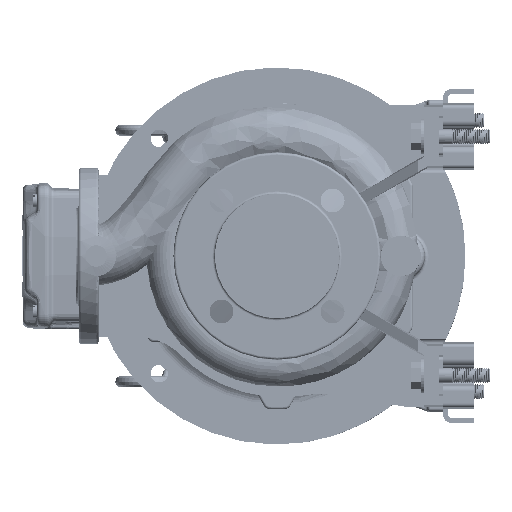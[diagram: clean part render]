
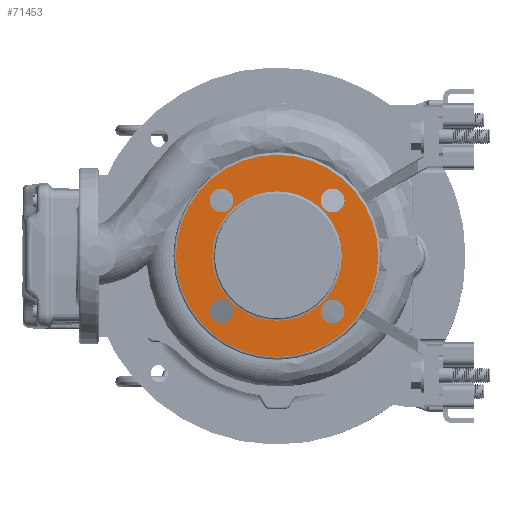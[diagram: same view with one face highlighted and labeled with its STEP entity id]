
A CAD part, left-side view. The second image highlights one B-rep face of the part: STEP entity #71453.
In plain terms, the highlighted planar face has unit normal (-1, 0, 0).
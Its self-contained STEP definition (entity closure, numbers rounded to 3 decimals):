
#610 = DIRECTION ( 'NONE',  ( 0., 1., 0. ) ) ;
#2597 = CIRCLE ( 'NONE', #121184, 9.5 ) ;
#4709 = EDGE_LOOP ( 'NONE', ( #108628, #142836 ) ) ;
#6112 = CARTESIAN_POINT ( 'NONE',  ( -120.82, 91.159, 279.741 ) ) ;
#6345 = CARTESIAN_POINT ( 'NONE',  ( -120.82, 215.853, 235.546 ) ) ;
#7012 = ORIENTED_EDGE ( 'NONE', *, *, #24531, .F. ) ;
#7055 = DIRECTION ( 'NONE',  ( 0., -1., 0. ) ) ;
#10644 = CIRCLE ( 'NONE', #50999, 80.5 ) ;
#12443 = CIRCLE ( 'NONE', #165900, 9.5 ) ;
#12682 = DIRECTION ( 'NONE',  ( 0., 1., 0. ) ) ;
#13938 = DIRECTION ( 'NONE',  ( 0., 0., 1. ) ) ;
#14482 = DIRECTION ( 'NONE',  ( -1., 0., 0. ) ) ;
#15653 = EDGE_LOOP ( 'NONE', ( #146775, #64648 ) ) ;
#15783 = CIRCLE ( 'NONE', #18428, 80.5 ) ;
#16648 = VERTEX_POINT ( 'NONE', #131431 ) ;
#17699 = ORIENTED_EDGE ( 'NONE', *, *, #138124, .F. ) ;
#18428 = AXIS2_PLACEMENT_3D ( 'NONE', #157120, #120843, #107389 ) ;
#20171 = ORIENTED_EDGE ( 'NONE', *, *, #32371, .F. ) ;
#20333 = DIRECTION ( 'NONE',  ( -1., 0., 0. ) ) ;
#23527 = CIRCLE ( 'NONE', #50499, 9.5 ) ;
#24531 = EDGE_CURVE ( 'NONE', #159155, #96260, #118765, .T. ) ;
#24787 = EDGE_LOOP ( 'NONE', ( #106997, #20171 ) ) ;
#25406 = ORIENTED_EDGE ( 'NONE', *, *, #28792, .F. ) ;
#28792 = EDGE_CURVE ( 'NONE', #124839, #139012, #135855, .T. ) ;
#30000 = CARTESIAN_POINT ( 'NONE',  ( -120.82, 127.465, 235.546 ) ) ;
#30921 = CIRCLE ( 'NONE', #117101, 9.5 ) ;
#32371 = EDGE_CURVE ( 'NONE', #157314, #16648, #23527, .T. ) ;
#38835 = CARTESIAN_POINT ( 'NONE',  ( -120.82, 215.853, 323.935 ) ) ;
#40479 = VERTEX_POINT ( 'NONE', #6112 ) ;
#48130 = CARTESIAN_POINT ( 'NONE',  ( -120.82, 223.159, 279.741 ) ) ;
#49294 = CARTESIAN_POINT ( 'NONE',  ( -120.82, 225.353, 323.935 ) ) ;
#50499 = AXIS2_PLACEMENT_3D ( 'NONE', #88370, #130465, #610 ) ;
#50999 = AXIS2_PLACEMENT_3D ( 'NONE', #165051, #128784, #141416 ) ;
#51461 = FACE_BOUND ( 'NONE', #99725, .T. ) ;
#52324 = DIRECTION ( 'NONE',  ( -1., 0., 0. ) ) ;
#52541 = EDGE_LOOP ( 'NONE', ( #74831, #25406 ) ) ;
#53853 = ORIENTED_EDGE ( 'NONE', *, *, #132936, .F. ) ;
#55297 = DIRECTION ( 'NONE',  ( 0., 1., 0. ) ) ;
#55962 = CARTESIAN_POINT ( 'NONE',  ( -120.82, 117.965, 323.935 ) ) ;
#56860 = CARTESIAN_POINT ( 'NONE',  ( -120.82, 225.353, 235.546 ) ) ;
#57433 = EDGE_CURVE ( 'NONE', #40479, #107458, #10644, .T. ) ;
#57810 = DIRECTION ( 'NONE',  ( -1., 0., 0. ) ) ;
#58520 = CARTESIAN_POINT ( 'NONE',  ( -120.82, 171.659, 279.741 ) ) ;
#59065 = VERTEX_POINT ( 'NONE', #139860 ) ;
#60722 = VERTEX_POINT ( 'NONE', #49294 ) ;
#60795 = FACE_BOUND ( 'NONE', #52541, .T. ) ;
#61036 = CARTESIAN_POINT ( 'NONE',  ( -120.82, 136.965, 235.546 ) ) ;
#64648 = ORIENTED_EDGE ( 'NONE', *, *, #162212, .T. ) ;
#65106 = DIRECTION ( 'NONE',  ( 0., -1., 0. ) ) ;
#67466 = CARTESIAN_POINT ( 'NONE',  ( -120.82, 120.159, 279.741 ) ) ;
#71453 = ADVANCED_FACE ( 'NONE', ( #88590, #153498, #51461, #115540, #60795, #165306 ), #140817, .F. ) ;
#74831 = ORIENTED_EDGE ( 'NONE', *, *, #104615, .F. ) ;
#75254 = AXIS2_PLACEMENT_3D ( 'NONE', #146846, #20333, #123206 ) ;
#75456 = AXIS2_PLACEMENT_3D ( 'NONE', #38835, #52324, #132395 ) ;
#77419 = CARTESIAN_POINT ( 'NONE',  ( -120.82, 252.159, 279.741 ) ) ;
#78093 = AXIS2_PLACEMENT_3D ( 'NONE', #48130, #166144, #12682 ) ;
#80526 = CARTESIAN_POINT ( 'NONE',  ( -120.82, 215.853, 235.546 ) ) ;
#83944 = DIRECTION ( 'NONE',  ( 0., 0., 1. ) ) ;
#84678 = EDGE_LOOP ( 'NONE', ( #151621, #7012 ) ) ;
#88370 = CARTESIAN_POINT ( 'NONE',  ( -120.82, 127.465, 235.546 ) ) ;
#88590 = FACE_BOUND ( 'NONE', #84678, .T. ) ;
#90193 = DIRECTION ( 'NONE',  ( 0., 0., -1. ) ) ;
#93245 = EDGE_CURVE ( 'NONE', #96260, #159155, #12443, .T. ) ;
#94246 = CIRCLE ( 'NONE', #75456, 9.5 ) ;
#96260 = VERTEX_POINT ( 'NONE', #55962 ) ;
#96965 = EDGE_CURVE ( 'NONE', #60722, #100098, #147965, .T. ) ;
#99725 = EDGE_LOOP ( 'NONE', ( #53853, #17699 ) ) ;
#100098 = VERTEX_POINT ( 'NONE', #142885 ) ;
#104615 = EDGE_CURVE ( 'NONE', #139012, #124839, #152518, .T. ) ;
#104721 = CARTESIAN_POINT ( 'NONE',  ( -120.82, 171.659, 279.741 ) ) ;
#105687 = CARTESIAN_POINT ( 'NONE',  ( -120.82, 223.159, 279.741 ) ) ;
#105724 = CIRCLE ( 'NONE', #111096, 9.5 ) ;
#106997 = ORIENTED_EDGE ( 'NONE', *, *, #129070, .F. ) ;
#107389 = DIRECTION ( 'NONE',  ( 0., -1., 0. ) ) ;
#107458 = VERTEX_POINT ( 'NONE', #77419 ) ;
#108628 = ORIENTED_EDGE ( 'NONE', *, *, #127296, .F. ) ;
#109117 = DIRECTION ( 'NONE',  ( -1., 0., 0. ) ) ;
#109439 = AXIS2_PLACEMENT_3D ( 'NONE', #104721, #14482, #65106 ) ;
#111096 = AXIS2_PLACEMENT_3D ( 'NONE', #6345, #57810, #83944 ) ;
#115486 = DIRECTION ( 'NONE',  ( -1., 0., 0. ) ) ;
#115540 = FACE_BOUND ( 'NONE', #4709, .T. ) ;
#117101 = AXIS2_PLACEMENT_3D ( 'NONE', #80526, #157244, #13938 ) ;
#118765 = CIRCLE ( 'NONE', #140291, 9.5 ) ;
#120843 = DIRECTION ( 'NONE',  ( -1., 0., 0. ) ) ;
#121184 = AXIS2_PLACEMENT_3D ( 'NONE', #30000, #159815, #55297 ) ;
#123206 = DIRECTION ( 'NONE',  ( 0., -1., 0. ) ) ;
#124839 = VERTEX_POINT ( 'NONE', #105687 ) ;
#127296 = EDGE_CURVE ( 'NONE', #100098, #60722, #94246, .T. ) ;
#128784 = DIRECTION ( 'NONE',  ( -1., 0., 0. ) ) ;
#129070 = EDGE_CURVE ( 'NONE', #16648, #157314, #2597, .T. ) ;
#130465 = DIRECTION ( 'NONE',  ( -1., 0., 0. ) ) ;
#131431 = CARTESIAN_POINT ( 'NONE',  ( -120.82, 117.965, 235.546 ) ) ;
#132208 = DIRECTION ( 'NONE',  ( 0., 0., -1. ) ) ;
#132395 = DIRECTION ( 'NONE',  ( 0., -1., 0. ) ) ;
#132936 = EDGE_CURVE ( 'NONE', #59065, #137332, #105724, .T. ) ;
#135855 = CIRCLE ( 'NONE', #157398, 51.5 ) ;
#137332 = VERTEX_POINT ( 'NONE', #56860 ) ;
#138124 = EDGE_CURVE ( 'NONE', #137332, #59065, #30921, .T. ) ;
#139012 = VERTEX_POINT ( 'NONE', #67466 ) ;
#139860 = CARTESIAN_POINT ( 'NONE',  ( -120.82, 206.353, 235.546 ) ) ;
#140291 = AXIS2_PLACEMENT_3D ( 'NONE', #144018, #142360, #132208 ) ;
#140817 = PLANE ( 'NONE',  #78093 ) ;
#140895 = CARTESIAN_POINT ( 'NONE',  ( -120.82, 136.965, 323.935 ) ) ;
#141416 = DIRECTION ( 'NONE',  ( 0., -1., 0. ) ) ;
#142360 = DIRECTION ( 'NONE',  ( -1., 0., 0. ) ) ;
#142836 = ORIENTED_EDGE ( 'NONE', *, *, #96965, .F. ) ;
#142885 = CARTESIAN_POINT ( 'NONE',  ( -120.82, 206.353, 323.935 ) ) ;
#144018 = CARTESIAN_POINT ( 'NONE',  ( -120.82, 127.465, 323.935 ) ) ;
#146775 = ORIENTED_EDGE ( 'NONE', *, *, #57433, .T. ) ;
#146846 = CARTESIAN_POINT ( 'NONE',  ( -120.82, 215.853, 323.935 ) ) ;
#147965 = CIRCLE ( 'NONE', #75254, 9.5 ) ;
#151621 = ORIENTED_EDGE ( 'NONE', *, *, #93245, .F. ) ;
#152518 = CIRCLE ( 'NONE', #109439, 51.5 ) ;
#153498 = FACE_BOUND ( 'NONE', #24787, .T. ) ;
#157120 = CARTESIAN_POINT ( 'NONE',  ( -120.82, 171.659, 279.741 ) ) ;
#157244 = DIRECTION ( 'NONE',  ( -1., 0., 0. ) ) ;
#157314 = VERTEX_POINT ( 'NONE', #61036 ) ;
#157398 = AXIS2_PLACEMENT_3D ( 'NONE', #58520, #109117, #7055 ) ;
#159155 = VERTEX_POINT ( 'NONE', #140895 ) ;
#159815 = DIRECTION ( 'NONE',  ( -1., 0., 0. ) ) ;
#162212 = EDGE_CURVE ( 'NONE', #107458, #40479, #15783, .T. ) ;
#165051 = CARTESIAN_POINT ( 'NONE',  ( -120.82, 171.659, 279.741 ) ) ;
#165241 = CARTESIAN_POINT ( 'NONE',  ( -120.82, 127.465, 323.935 ) ) ;
#165306 = FACE_OUTER_BOUND ( 'NONE', #15653, .T. ) ;
#165900 = AXIS2_PLACEMENT_3D ( 'NONE', #165241, #115486, #90193 ) ;
#166144 = DIRECTION ( 'NONE',  ( 1., 0., 0. ) ) ;
